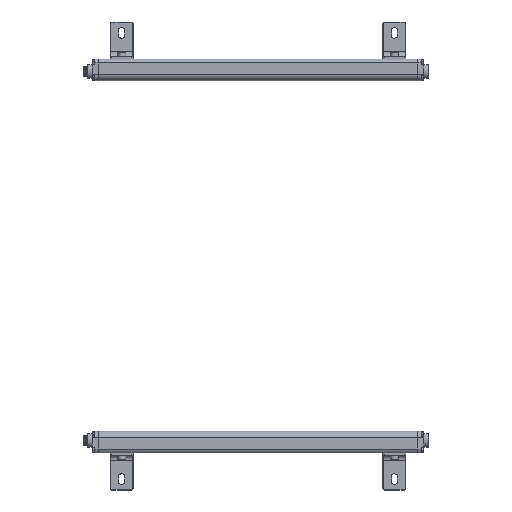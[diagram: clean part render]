
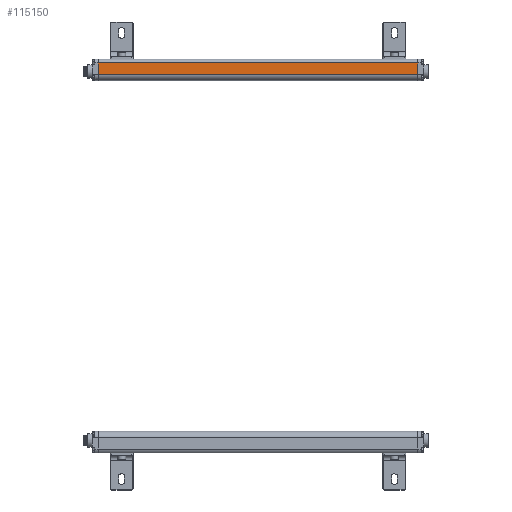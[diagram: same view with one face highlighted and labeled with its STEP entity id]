
A CAD part, left-side view. The second image highlights one B-rep face of the part: STEP entity #115150.
In plain terms, the highlighted planar face has unit normal (-1, 0, 0).
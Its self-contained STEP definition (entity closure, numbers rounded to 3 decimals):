
#6522 = DIRECTION ( 'NONE',  ( 0., -1., 0. ) ) ;
#9627 = CARTESIAN_POINT ( 'NONE',  ( -17.35, 0., 8.225 ) ) ;
#13064 = LINE ( 'NONE', #9627, #131257 ) ;
#19895 = ORIENTED_EDGE ( 'NONE', *, *, #30811, .T. ) ;
#20643 = DIRECTION ( 'NONE',  ( 0., -1., 0. ) ) ;
#22994 = ORIENTED_EDGE ( 'NONE', *, *, #114320, .T. ) ;
#23801 = PLANE ( 'NONE',  #69146 ) ;
#24953 = ORIENTED_EDGE ( 'NONE', *, *, #90177, .F. ) ;
#30811 = EDGE_CURVE ( 'NONE', #78891, #120580, #131507, .T. ) ;
#37826 = FACE_OUTER_BOUND ( 'NONE', #89901, .T. ) ;
#40673 = VECTOR ( 'NONE', #6522, 1000. ) ;
#41681 = VERTEX_POINT ( 'NONE', #86870 ) ;
#43251 = DIRECTION ( 'NONE',  ( 0., 0., 1. ) ) ;
#44705 = VECTOR ( 'NONE', #43251, 1000. ) ;
#49849 = CARTESIAN_POINT ( 'NONE',  ( -17.35, 405., 8.225 ) ) ;
#55981 = CARTESIAN_POINT ( 'NONE',  ( -17.35, 0., -6.175 ) ) ;
#63514 = LINE ( 'NONE', #83285, #66939 ) ;
#66939 = VECTOR ( 'NONE', #115877, 1000. ) ;
#69146 = AXIS2_PLACEMENT_3D ( 'NONE', #133007, #132537, #131594 ) ;
#71670 = ORIENTED_EDGE ( 'NONE', *, *, #116224, .F. ) ;
#74856 = CARTESIAN_POINT ( 'NONE',  ( -17.35, 405., 0. ) ) ;
#78891 = VERTEX_POINT ( 'NONE', #128825 ) ;
#83285 = CARTESIAN_POINT ( 'NONE',  ( -17.35, 0., 0. ) ) ;
#86870 = CARTESIAN_POINT ( 'NONE',  ( -17.35, 0., 8.225 ) ) ;
#89901 = EDGE_LOOP ( 'NONE', ( #19895, #22994, #24953, #71670 ) ) ;
#90177 = EDGE_CURVE ( 'NONE', #117991, #41681, #13064, .T. ) ;
#93669 = CARTESIAN_POINT ( 'NONE',  ( -17.35, 0., -6.175 ) ) ;
#114320 = EDGE_CURVE ( 'NONE', #120580, #41681, #63514, .T. ) ;
#115150 = ADVANCED_FACE ( 'NONE', ( #37826 ), #23801, .T. ) ;
#115877 = DIRECTION ( 'NONE',  ( 0., 0., 1. ) ) ;
#116224 = EDGE_CURVE ( 'NONE', #78891, #117991, #135532, .T. ) ;
#117991 = VERTEX_POINT ( 'NONE', #49849 ) ;
#120580 = VERTEX_POINT ( 'NONE', #55981 ) ;
#128825 = CARTESIAN_POINT ( 'NONE',  ( -17.35, 405., -6.175 ) ) ;
#131257 = VECTOR ( 'NONE', #20643, 1000. ) ;
#131507 = LINE ( 'NONE', #93669, #40673 ) ;
#131594 = DIRECTION ( 'NONE',  ( 0., 0., 1. ) ) ;
#132537 = DIRECTION ( 'NONE',  ( -1., 0., 0. ) ) ;
#133007 = CARTESIAN_POINT ( 'NONE',  ( -17.35, 0., -6.175 ) ) ;
#135532 = LINE ( 'NONE', #74856, #44705 ) ;
